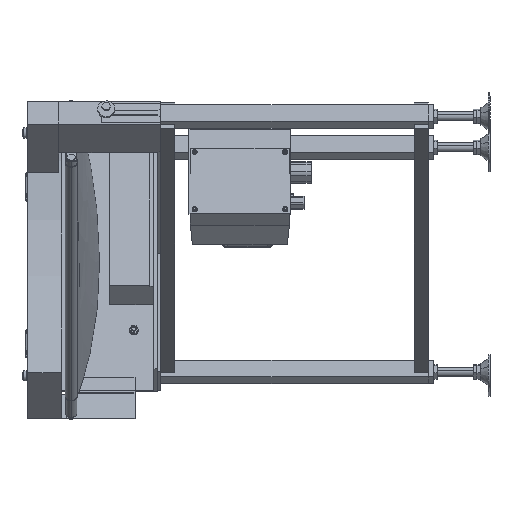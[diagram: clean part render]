
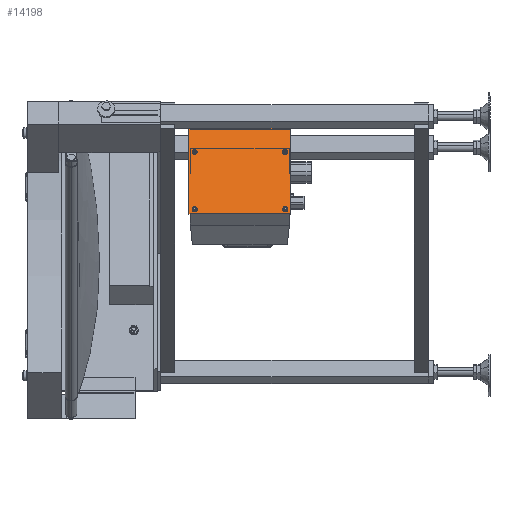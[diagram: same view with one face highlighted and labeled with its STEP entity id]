
A CAD part, left-side view. The second image highlights one B-rep face of the part: STEP entity #14198.
In plain terms, the highlighted planar face has unit normal (-0.924, 0, 0.383).
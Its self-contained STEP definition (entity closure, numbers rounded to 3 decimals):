
#146 = FACE_BOUND ( 'NONE', #37665, .T. ) ;
#519 = CARTESIAN_POINT ( 'NONE',  ( 569.265, -217.5, -198.996 ) ) ;
#1144 = AXIS2_PLACEMENT_3D ( 'NONE', #33256, #29562, #33572 ) ;
#1181 = EDGE_LOOP ( 'NONE', ( #20808, #35507, #29582, #19688 ) ) ;
#1191 = EDGE_CURVE ( 'NONE', #21910, #10948, #9223, .T. ) ;
#1211 = VERTEX_POINT ( 'NONE', #12818 ) ;
#1590 = ORIENTED_EDGE ( 'NONE', *, *, #16164, .T. ) ;
#1715 = CARTESIAN_POINT ( 'NONE',  ( 614.231, -227.5, -90.44 ) ) ;
#2717 = VECTOR ( 'NONE', #15921, 1000. ) ;
#3093 = AXIS2_PLACEMENT_3D ( 'NONE', #16135, #45986, #13117 ) ;
#3760 = CARTESIAN_POINT ( 'NONE',  ( 569.265, -397.5, -198.996 ) ) ;
#3886 = AXIS2_PLACEMENT_3D ( 'NONE', #1715, #23558, #9392 ) ;
#4256 = VERTEX_POINT ( 'NONE', #25492 ) ;
#4637 = CARTESIAN_POINT ( 'NONE',  ( 569.265, -397.5, -198.996 ) ) ;
#5232 = DIRECTION ( 'NONE',  ( 0., 1., 0. ) ) ;
#5553 = ORIENTED_EDGE ( 'NONE', *, *, #38387, .T. ) ;
#5953 = EDGE_LOOP ( 'NONE', ( #8730, #1590 ) ) ;
#7425 = CARTESIAN_POINT ( 'NONE',  ( 572.135, -227.5, -192.067 ) ) ;
#7458 = CARTESIAN_POINT ( 'NONE',  ( 615.953, -387.5, -86.283 ) ) ;
#7687 = CIRCLE ( 'NONE', #42162, 4.5 ) ;
#7713 = CIRCLE ( 'NONE', #47261, 4.5 ) ;
#8730 = ORIENTED_EDGE ( 'NONE', *, *, #44600, .T. ) ;
#8796 = CARTESIAN_POINT ( 'NONE',  ( 569.265, -397.5, -198.996 ) ) ;
#9223 = CIRCLE ( 'NONE', #3093, 4.5 ) ;
#9392 = DIRECTION ( 'NONE',  ( -0.383, 0., -0.924 ) ) ;
#9839 = DIRECTION ( 'NONE',  ( 0.383, 0., 0.924 ) ) ;
#10568 = DIRECTION ( 'NONE',  ( -0.383, 0., -0.924 ) ) ;
#10644 = EDGE_CURVE ( 'NONE', #10948, #21910, #7713, .T. ) ;
#10684 = ORIENTED_EDGE ( 'NONE', *, *, #25776, .T. ) ;
#10948 = VERTEX_POINT ( 'NONE', #38145 ) ;
#11637 = CARTESIAN_POINT ( 'NONE',  ( 632.408, -397.5, -46.556 ) ) ;
#12182 = DIRECTION ( 'NONE',  ( -0.383, 0., -0.924 ) ) ;
#12818 = CARTESIAN_POINT ( 'NONE',  ( 569.265, -217.5, -198.996 ) ) ;
#12948 = CARTESIAN_POINT ( 'NONE',  ( 573.857, -227.5, -187.91 ) ) ;
#13117 = DIRECTION ( 'NONE',  ( -0.383, 0., -0.924 ) ) ;
#14056 = DIRECTION ( 'NONE',  ( 0.924, 0., -0.383 ) ) ;
#14095 = ORIENTED_EDGE ( 'NONE', *, *, #20153, .T. ) ;
#14198 = ADVANCED_FACE ( 'NONE', ( #146, #23001, #37850, #46421, #30919 ), #18393, .T. ) ;
#14573 = VERTEX_POINT ( 'NONE', #16892 ) ;
#14920 = DIRECTION ( 'NONE',  ( -0.383, 0., -0.924 ) ) ;
#15419 = EDGE_LOOP ( 'NONE', ( #16171, #10684 ) ) ;
#15921 = DIRECTION ( 'NONE',  ( 0., 1., 0. ) ) ;
#16135 = CARTESIAN_POINT ( 'NONE',  ( 572.135, -227.5, -192.067 ) ) ;
#16164 = EDGE_CURVE ( 'NONE', #14573, #4256, #42834, .T. ) ;
#16171 = ORIENTED_EDGE ( 'NONE', *, *, #45548, .T. ) ;
#16844 = DIRECTION ( 'NONE',  ( 0.924, 0., -0.383 ) ) ;
#16892 = CARTESIAN_POINT ( 'NONE',  ( 615.953, -227.5, -86.283 ) ) ;
#18393 = PLANE ( 'NONE',  #37059 ) ;
#19454 = VERTEX_POINT ( 'NONE', #4637 ) ;
#19688 = ORIENTED_EDGE ( 'NONE', *, *, #36325, .T. ) ;
#20153 = EDGE_CURVE ( 'NONE', #36386, #34941, #7687, .T. ) ;
#20617 = VECTOR ( 'NONE', #36432, 1000. ) ;
#20690 = DIRECTION ( 'NONE',  ( -0.383, 0., -0.924 ) ) ;
#20808 = ORIENTED_EDGE ( 'NONE', *, *, #29481, .F. ) ;
#20944 = AXIS2_PLACEMENT_3D ( 'NONE', #26651, #41207, #12182 ) ;
#21796 = VERTEX_POINT ( 'NONE', #24083 ) ;
#21910 = VERTEX_POINT ( 'NONE', #12948 ) ;
#21919 = DIRECTION ( 'NONE',  ( -0.924, 0., 0.383 ) ) ;
#22107 = DIRECTION ( 'NONE',  ( 0.924, 0., -0.383 ) ) ;
#22301 = ORIENTED_EDGE ( 'NONE', *, *, #1191, .T. ) ;
#22412 = CARTESIAN_POINT ( 'NONE',  ( 614.231, -387.5, -90.44 ) ) ;
#23001 = FACE_BOUND ( 'NONE', #15419, .T. ) ;
#23541 = CARTESIAN_POINT ( 'NONE',  ( 612.508, -387.5, -94.598 ) ) ;
#23558 = DIRECTION ( 'NONE',  ( 0.924, 0., -0.383 ) ) ;
#24083 = CARTESIAN_POINT ( 'NONE',  ( 632.408, -397.5, -46.556 ) ) ;
#24737 = VERTEX_POINT ( 'NONE', #35980 ) ;
#25492 = CARTESIAN_POINT ( 'NONE',  ( 612.508, -227.5, -94.598 ) ) ;
#25776 = EDGE_CURVE ( 'NONE', #32181, #41467, #39747, .T. ) ;
#26311 = LINE ( 'NONE', #519, #20617 ) ;
#26511 = ORIENTED_EDGE ( 'NONE', *, *, #10644, .T. ) ;
#26651 = CARTESIAN_POINT ( 'NONE',  ( 614.231, -227.5, -90.44 ) ) ;
#26878 = CARTESIAN_POINT ( 'NONE',  ( 573.857, -387.5, -187.91 ) ) ;
#27374 = AXIS2_PLACEMENT_3D ( 'NONE', #41616, #16844, #20690 ) ;
#28758 = DIRECTION ( 'NONE',  ( -0.383, 0., -0.924 ) ) ;
#28826 = CIRCLE ( 'NONE', #3886, 4.5 ) ;
#29481 = EDGE_CURVE ( 'NONE', #1211, #24737, #26311, .T. ) ;
#29562 = DIRECTION ( 'NONE',  ( 0.924, 0., -0.383 ) ) ;
#29582 = ORIENTED_EDGE ( 'NONE', *, *, #36521, .T. ) ;
#30919 = FACE_OUTER_BOUND ( 'NONE', #1181, .T. ) ;
#31628 = CARTESIAN_POINT ( 'NONE',  ( 569.265, -397.5, -198.996 ) ) ;
#31771 = LINE ( 'NONE', #8796, #2717 ) ;
#32046 = LINE ( 'NONE', #11637, #37205 ) ;
#32181 = VERTEX_POINT ( 'NONE', #7458 ) ;
#32216 = CARTESIAN_POINT ( 'NONE',  ( 572.135, -387.5, -192.067 ) ) ;
#32754 = DIRECTION ( 'NONE',  ( 0.383, 0., 0.924 ) ) ;
#33256 = CARTESIAN_POINT ( 'NONE',  ( 572.135, -387.5, -192.067 ) ) ;
#33572 = DIRECTION ( 'NONE',  ( -0.383, 0., -0.924 ) ) ;
#34221 = CARTESIAN_POINT ( 'NONE',  ( 570.413, -387.5, -196.224 ) ) ;
#34941 = VERTEX_POINT ( 'NONE', #34221 ) ;
#35507 = ORIENTED_EDGE ( 'NONE', *, *, #39537, .F. ) ;
#35980 = CARTESIAN_POINT ( 'NONE',  ( 632.408, -217.5, -46.556 ) ) ;
#36325 = EDGE_CURVE ( 'NONE', #21796, #24737, #32046, .T. ) ;
#36386 = VERTEX_POINT ( 'NONE', #26878 ) ;
#36432 = DIRECTION ( 'NONE',  ( 0.383, 0., 0.924 ) ) ;
#36521 = EDGE_CURVE ( 'NONE', #19454, #21796, #43454, .T. ) ;
#37059 = AXIS2_PLACEMENT_3D ( 'NONE', #3760, #21919, #32754 ) ;
#37205 = VECTOR ( 'NONE', #5232, 1000. ) ;
#37665 = EDGE_LOOP ( 'NONE', ( #5553, #14095 ) ) ;
#37850 = FACE_BOUND ( 'NONE', #45721, .T. ) ;
#38145 = CARTESIAN_POINT ( 'NONE',  ( 570.413, -227.5, -196.224 ) ) ;
#38345 = VECTOR ( 'NONE', #9839, 1000. ) ;
#38387 = EDGE_CURVE ( 'NONE', #34941, #36386, #43879, .T. ) ;
#39537 = EDGE_CURVE ( 'NONE', #19454, #1211, #31771, .T. ) ;
#39591 = AXIS2_PLACEMENT_3D ( 'NONE', #22412, #22107, #14920 ) ;
#39640 = CIRCLE ( 'NONE', #27374, 4.5 ) ;
#39747 = CIRCLE ( 'NONE', #39591, 4.5 ) ;
#41207 = DIRECTION ( 'NONE',  ( 0.924, 0., -0.383 ) ) ;
#41467 = VERTEX_POINT ( 'NONE', #23541 ) ;
#41616 = CARTESIAN_POINT ( 'NONE',  ( 614.231, -387.5, -90.44 ) ) ;
#42162 = AXIS2_PLACEMENT_3D ( 'NONE', #32216, #14056, #10568 ) ;
#42834 = CIRCLE ( 'NONE', #20944, 4.5 ) ;
#43454 = LINE ( 'NONE', #31628, #38345 ) ;
#43879 = CIRCLE ( 'NONE', #1144, 4.5 ) ;
#44600 = EDGE_CURVE ( 'NONE', #4256, #14573, #28826, .T. ) ;
#45548 = EDGE_CURVE ( 'NONE', #41467, #32181, #39640, .T. ) ;
#45721 = EDGE_LOOP ( 'NONE', ( #26511, #22301 ) ) ;
#45986 = DIRECTION ( 'NONE',  ( 0.924, 0., -0.383 ) ) ;
#46421 = FACE_BOUND ( 'NONE', #5953, .T. ) ;
#47001 = DIRECTION ( 'NONE',  ( 0.924, 0., -0.383 ) ) ;
#47261 = AXIS2_PLACEMENT_3D ( 'NONE', #7425, #47001, #28758 ) ;
